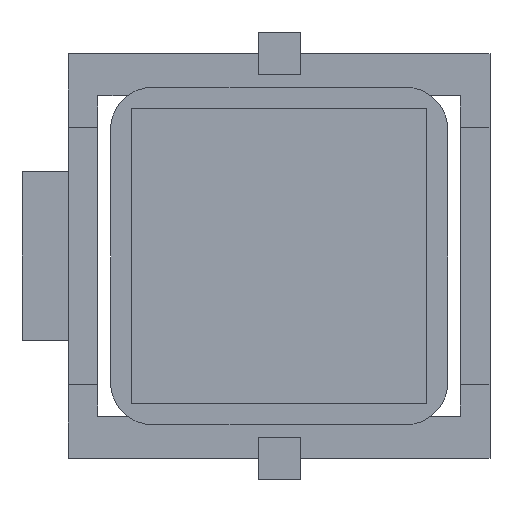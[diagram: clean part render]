
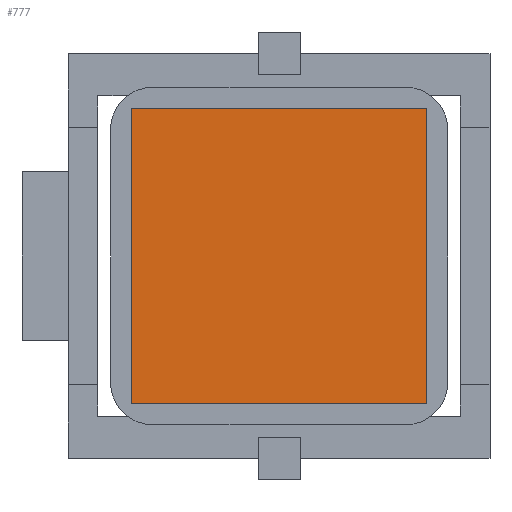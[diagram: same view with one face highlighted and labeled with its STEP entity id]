
A CAD part, front view. The second image highlights one B-rep face of the part: STEP entity #777.
In plain terms, the highlighted planar face has unit normal (0, -1, 0).
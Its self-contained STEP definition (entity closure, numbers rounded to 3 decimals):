
#86 = CARTESIAN_POINT ( 'NONE',  ( -2.913, -13.936, 0.225 ) ) ;
#777 = ADVANCED_FACE ( 'NONE', ( #4319 ), #4410, .F. ) ;
#780 = VECTOR ( 'NONE', #825, 1000. ) ;
#825 = DIRECTION ( 'NONE',  ( 0., 0., -1. ) ) ;
#967 = VECTOR ( 'NONE', #2879, 1000. ) ;
#1008 = LINE ( 'NONE', #2754, #2007 ) ;
#1131 = AXIS2_PLACEMENT_3D ( 'NONE', #1481, #2640, #3582 ) ;
#1216 = EDGE_CURVE ( 'NONE', #2018, #1947, #3806, .T. ) ;
#1250 = VECTOR ( 'NONE', #4441, 1000. ) ;
#1481 = CARTESIAN_POINT ( 'NONE',  ( -2.913, -13.936, 0.225 ) ) ;
#1548 = EDGE_CURVE ( 'NONE', #1947, #2711, #1008, .T. ) ;
#1791 = CARTESIAN_POINT ( 'NONE',  ( 11.087, -13.936, 0.225 ) ) ;
#1819 = EDGE_CURVE ( 'NONE', #2178, #2018, #3017, .T. ) ;
#1947 = VERTEX_POINT ( 'NONE', #2256 ) ;
#2007 = VECTOR ( 'NONE', #2620, 1000. ) ;
#2018 = VERTEX_POINT ( 'NONE', #86 ) ;
#2178 = VERTEX_POINT ( 'NONE', #3353 ) ;
#2256 = CARTESIAN_POINT ( 'NONE',  ( -2.913, -13.936, 14.225 ) ) ;
#2316 = ORIENTED_EDGE ( 'NONE', *, *, #2687, .F. ) ;
#2589 = ORIENTED_EDGE ( 'NONE', *, *, #1819, .F. ) ;
#2620 = DIRECTION ( 'NONE',  ( 1., 0., 0. ) ) ;
#2640 = DIRECTION ( 'NONE',  ( 0., 1., 0. ) ) ;
#2687 = EDGE_CURVE ( 'NONE', #2711, #2178, #4380, .T. ) ;
#2711 = VERTEX_POINT ( 'NONE', #3918 ) ;
#2754 = CARTESIAN_POINT ( 'NONE',  ( -2.913, -13.936, 14.225 ) ) ;
#2879 = DIRECTION ( 'NONE',  ( 0., 0., 1. ) ) ;
#3017 = LINE ( 'NONE', #3381, #1250 ) ;
#3202 = CARTESIAN_POINT ( 'NONE',  ( -2.913, -13.936, 0.225 ) ) ;
#3353 = CARTESIAN_POINT ( 'NONE',  ( 11.087, -13.936, 0.225 ) ) ;
#3354 = ORIENTED_EDGE ( 'NONE', *, *, #1548, .F. ) ;
#3381 = CARTESIAN_POINT ( 'NONE',  ( -2.913, -13.936, 0.225 ) ) ;
#3582 = DIRECTION ( 'NONE',  ( 0., 0., 1. ) ) ;
#3806 = LINE ( 'NONE', #3202, #967 ) ;
#3918 = CARTESIAN_POINT ( 'NONE',  ( 11.087, -13.936, 14.225 ) ) ;
#4117 = EDGE_LOOP ( 'NONE', ( #4456, #2589, #2316, #3354 ) ) ;
#4319 = FACE_OUTER_BOUND ( 'NONE', #4117, .T. ) ;
#4380 = LINE ( 'NONE', #1791, #780 ) ;
#4410 = PLANE ( 'NONE',  #1131 ) ;
#4441 = DIRECTION ( 'NONE',  ( -1., 0., 0. ) ) ;
#4456 = ORIENTED_EDGE ( 'NONE', *, *, #1216, .F. ) ;
